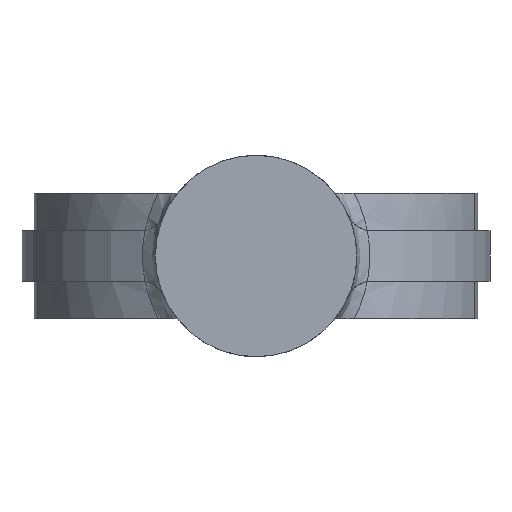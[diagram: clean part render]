
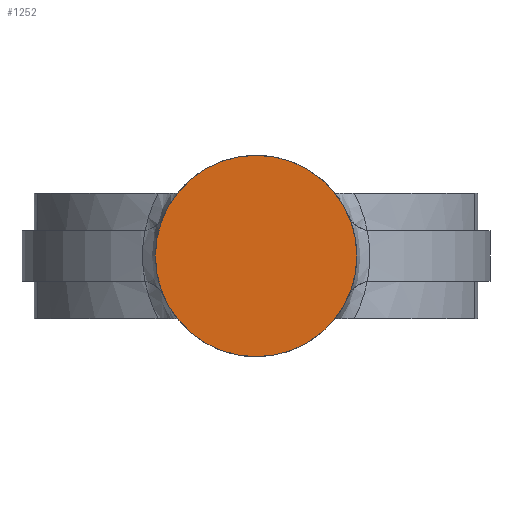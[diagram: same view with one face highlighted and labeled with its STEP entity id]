
A CAD part, front view. The second image highlights one B-rep face of the part: STEP entity #1252.
In plain terms, the highlighted planar face has unit normal (0, -1, 0).
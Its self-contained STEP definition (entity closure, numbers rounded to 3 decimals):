
#28 = DIRECTION ( 'NONE',  ( -1., 0., 0. ) ) ;
#226 = ORIENTED_EDGE ( 'NONE', *, *, #1347, .F. ) ;
#798 = AXIS2_PLACEMENT_3D ( 'NONE', #2029, #1858, #28 ) ;
#902 = CARTESIAN_POINT ( 'NONE',  ( 0., -7.856, 0. ) ) ;
#904 = EDGE_LOOP ( 'NONE', ( #1622, #226 ) ) ;
#915 = DIRECTION ( 'NONE',  ( 0., 1., 0. ) ) ;
#933 = DIRECTION ( 'NONE',  ( -1., 0., 0. ) ) ;
#973 = AXIS2_PLACEMENT_3D ( 'NONE', #1099, #915, #933 ) ;
#1021 = DIRECTION ( 'NONE',  ( 0., 1., 0. ) ) ;
#1099 = CARTESIAN_POINT ( 'NONE',  ( 0., -7.856, 0. ) ) ;
#1139 = CIRCLE ( 'NONE', #973, 8. ) ;
#1200 = PLANE ( 'NONE',  #798 ) ;
#1252 = ADVANCED_FACE ( 'NONE', ( #1369 ), #1200, .F. ) ;
#1347 = EDGE_CURVE ( 'NONE', #1504, #2002, #2005, .T. ) ;
#1369 = FACE_OUTER_BOUND ( 'NONE', #904, .T. ) ;
#1438 = CARTESIAN_POINT ( 'NONE',  ( -8., -7.856, 0. ) ) ;
#1441 = EDGE_CURVE ( 'NONE', #2002, #1504, #1139, .T. ) ;
#1504 = VERTEX_POINT ( 'NONE', #1970 ) ;
#1555 = DIRECTION ( 'NONE',  ( -1., 0., 0. ) ) ;
#1622 = ORIENTED_EDGE ( 'NONE', *, *, #1441, .F. ) ;
#1858 = DIRECTION ( 'NONE',  ( 0., 1., 0. ) ) ;
#1902 = AXIS2_PLACEMENT_3D ( 'NONE', #902, #1021, #1555 ) ;
#1970 = CARTESIAN_POINT ( 'NONE',  ( 8., -7.856, 0. ) ) ;
#2002 = VERTEX_POINT ( 'NONE', #1438 ) ;
#2005 = CIRCLE ( 'NONE', #1902, 8. ) ;
#2029 = CARTESIAN_POINT ( 'NONE',  ( 0., -7.856, 0. ) ) ;
